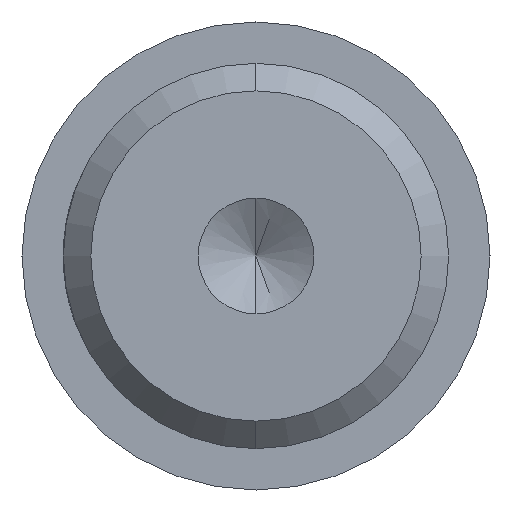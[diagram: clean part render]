
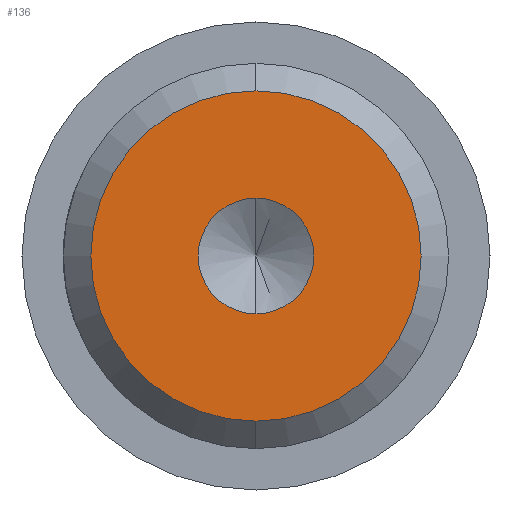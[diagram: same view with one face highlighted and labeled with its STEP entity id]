
A CAD part, left-side view. The second image highlights one B-rep face of the part: STEP entity #136.
In plain terms, the highlighted planar face has unit normal (-1, 0, 0).
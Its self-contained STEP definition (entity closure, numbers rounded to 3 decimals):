
#115 = CIRCLE ( 'NONE', #126, 2.1 ) ;
#118 = DIRECTION ( 'NONE',  ( -1., 0., 0. ) ) ;
#125 = DIRECTION ( 'NONE',  ( 0., 0., 1. ) ) ;
#126 = AXIS2_PLACEMENT_3D ( 'NONE', #161, #118, #125 ) ;
#131 = VERTEX_POINT ( 'NONE', #530 ) ;
#136 = ADVANCED_FACE ( 'NONE', ( #552, #561 ), #556, .T. ) ;
#138 = EDGE_LOOP ( 'NONE', ( #141, #196 ) ) ;
#139 = ORIENTED_EDGE ( 'NONE', *, *, #146, .F. ) ;
#141 = ORIENTED_EDGE ( 'NONE', *, *, #148, .T. ) ;
#142 = EDGE_LOOP ( 'NONE', ( #139, #147 ) ) ;
#146 = EDGE_CURVE ( 'NONE', #190, #131, #115, .T. ) ;
#147 = ORIENTED_EDGE ( 'NONE', *, *, #186, .F. ) ;
#148 = EDGE_CURVE ( 'NONE', #179, #178, #594, .T. ) ;
#161 = CARTESIAN_POINT ( 'NONE',  ( 0., 0., 0. ) ) ;
#174 = EDGE_CURVE ( 'NONE', #178, #179, #658, .T. ) ;
#178 = VERTEX_POINT ( 'NONE', #663 ) ;
#179 = VERTEX_POINT ( 'NONE', #647 ) ;
#186 = EDGE_CURVE ( 'NONE', #131, #190, #633, .T. ) ;
#190 = VERTEX_POINT ( 'NONE', #689 ) ;
#196 = ORIENTED_EDGE ( 'NONE', *, *, #174, .T. ) ;
#530 = CARTESIAN_POINT ( 'NONE',  ( 0., 0., -2.1 ) ) ;
#548 = DIRECTION ( 'NONE',  ( 0., 0., 1. ) ) ;
#549 = DIRECTION ( 'NONE',  ( -1., 0., 0. ) ) ;
#550 = CARTESIAN_POINT ( 'NONE',  ( 0., 7., 0. ) ) ;
#551 = AXIS2_PLACEMENT_3D ( 'NONE', #550, #549, #548 ) ;
#552 = FACE_BOUND ( 'NONE', #142, .T. ) ;
#556 = PLANE ( 'NONE',  #551 ) ;
#561 = FACE_OUTER_BOUND ( 'NONE', #138, .T. ) ;
#586 = DIRECTION ( 'NONE',  ( 0., 0., 1. ) ) ;
#587 = DIRECTION ( 'NONE',  ( -1., 0., 0. ) ) ;
#588 = CARTESIAN_POINT ( 'NONE',  ( 0., 0., 0. ) ) ;
#589 = AXIS2_PLACEMENT_3D ( 'NONE', #588, #587, #586 ) ;
#594 = CIRCLE ( 'NONE', #589, 6. ) ;
#633 = CIRCLE ( 'NONE', #693, 2.1 ) ;
#639 = CARTESIAN_POINT ( 'NONE',  ( 0., 0., 0. ) ) ;
#647 = CARTESIAN_POINT ( 'NONE',  ( 0., 0., -6. ) ) ;
#650 = DIRECTION ( 'NONE',  ( 0., 0., 1. ) ) ;
#651 = DIRECTION ( 'NONE',  ( -1., 0., 0. ) ) ;
#652 = CARTESIAN_POINT ( 'NONE',  ( 0., 0., 0. ) ) ;
#653 = AXIS2_PLACEMENT_3D ( 'NONE', #652, #651, #650 ) ;
#658 = CIRCLE ( 'NONE', #653, 6. ) ;
#663 = CARTESIAN_POINT ( 'NONE',  ( 0., 0., 6. ) ) ;
#689 = CARTESIAN_POINT ( 'NONE',  ( 0., 0., 2.1 ) ) ;
#691 = DIRECTION ( 'NONE',  ( 0., 0., 1. ) ) ;
#692 = DIRECTION ( 'NONE',  ( -1., 0., 0. ) ) ;
#693 = AXIS2_PLACEMENT_3D ( 'NONE', #639, #692, #691 ) ;
